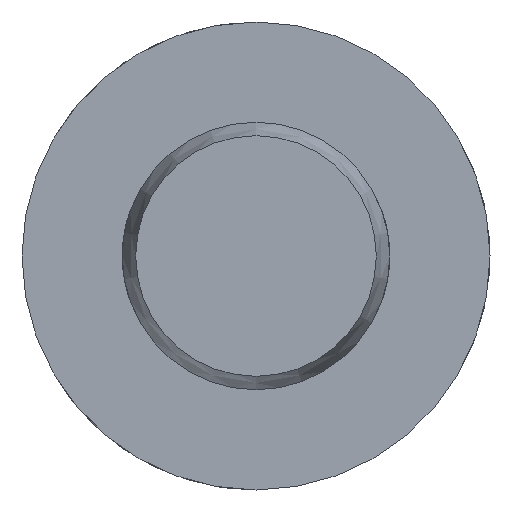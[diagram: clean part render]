
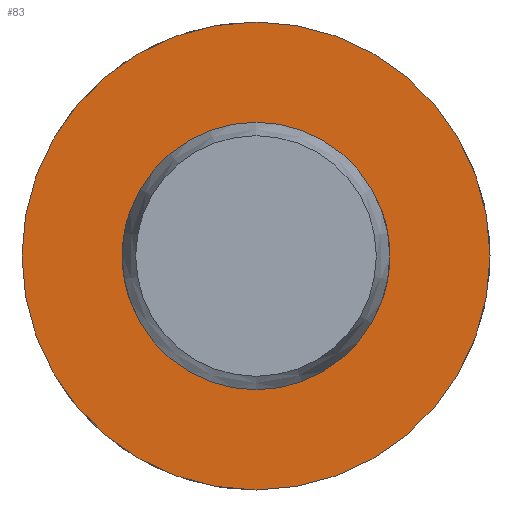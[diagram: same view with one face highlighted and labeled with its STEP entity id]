
A CAD part, left-side view. The second image highlights one B-rep face of the part: STEP entity #83.
In plain terms, the highlighted planar face has unit normal (-1, 0, 0).
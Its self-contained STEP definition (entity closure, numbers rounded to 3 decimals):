
#83 = ADVANCED_FACE( '', ( #128, #129 ), #130, .F. );
#128 = FACE_OUTER_BOUND( '', #204, .T. );
#129 = FACE_BOUND( '', #205, .T. );
#130 = PLANE( '', #206 );
#204 = EDGE_LOOP( '', ( #318 ) );
#205 = EDGE_LOOP( '', ( #319 ) );
#206 = AXIS2_PLACEMENT_3D( '', #320, #321, #322 );
#318 = ORIENTED_EDGE( '', *, *, #481, .F. );
#319 = ORIENTED_EDGE( '', *, *, #471, .T. );
#320 = CARTESIAN_POINT( '', ( 88.2, 4., 0. ) );
#321 = DIRECTION( '', ( 1., 0., 0. ) );
#322 = DIRECTION( '', ( 0., 0., -1. ) );
#471 = EDGE_CURVE( '', #541, #541, #542, .T. );
#481 = EDGE_CURVE( '', #559, #559, #560, .T. );
#541 = VERTEX_POINT( '', #726 );
#542 = CIRCLE( '', #727, 4. );
#559 = VERTEX_POINT( '', #861 );
#560 = CIRCLE( '', #862, 7. );
#726 = CARTESIAN_POINT( '', ( 88.2, 0., -4. ) );
#727 = AXIS2_PLACEMENT_3D( '', #923, #924, #925 );
#861 = CARTESIAN_POINT( '', ( 88.2, 0., -7. ) );
#862 = AXIS2_PLACEMENT_3D( '', #944, #945, #946 );
#923 = CARTESIAN_POINT( '', ( 88.2, 0., 0. ) );
#924 = DIRECTION( '', ( 1., 0., 0. ) );
#925 = DIRECTION( '', ( 0., 0., -1. ) );
#944 = CARTESIAN_POINT( '', ( 88.2, 0., 0. ) );
#945 = DIRECTION( '', ( 1., 0., 0. ) );
#946 = DIRECTION( '', ( 0., 0., -1. ) );
